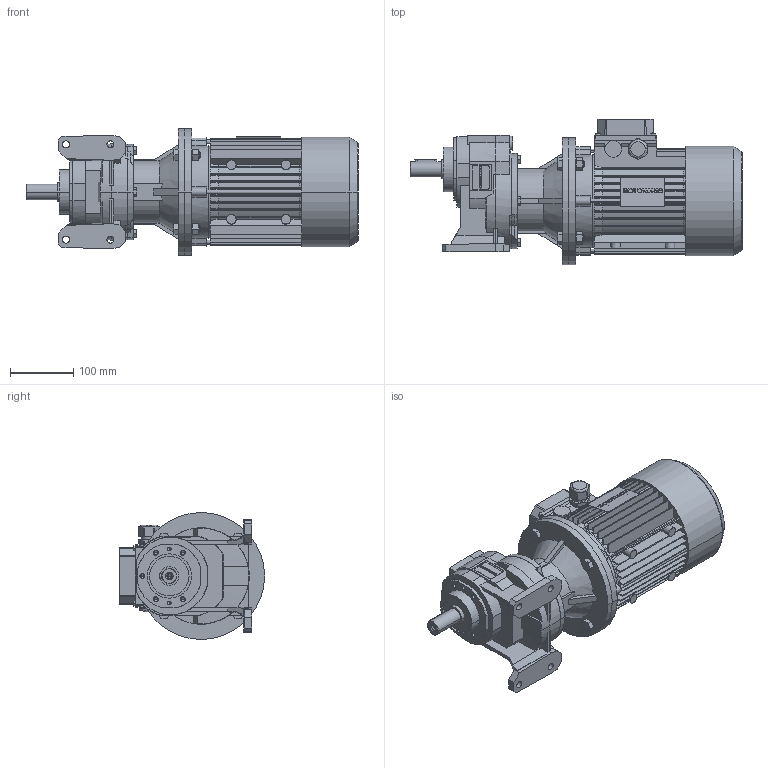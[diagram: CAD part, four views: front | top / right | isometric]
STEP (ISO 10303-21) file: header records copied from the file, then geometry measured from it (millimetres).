
FILE_DESCRIPTION( ( '' ), '1' );
FILE_NAME( '//expscmdclustefs.cadenas.external/client_exchange/iodir/jobs/output/wkb51935046_no0/STEP/H051U1_2790_B524x500T090L1_2_03.stp', '2012-12-04T09:19:48', ( '' ), ( '' ), ' ', ' ', ' ' );
FILE_SCHEMA( ( 'CONFIG_CONTROL_DESIGN' ) );
Length unit declared in the file: millimetre
Products named in the file (11): 1; 2; 3; 4; 5; 6; 7; 8; 9; 10; 11
Bounding box: 523 x 228.6 x 200 mm (x, y, z)
Volume: 8981172.5 mm3; surface area: 813359.4 mm2
Topology: 11 solids, 11 shells, 2280 faces, 6211 edges, 4065 vertices
Faces by surface type: plane 1206, cylinder 861, cone 196, torus 11, sphere 6
Entity records: 73355 total; most frequent: CARTESIAN_POINT 13939, DIRECTION 12701, ORIENTED_EDGE 12386, EDGE_CURVE 6193, AXIS2_PLACEMENT_3D 4509, VERTEX_POINT 4065, LINE 3683, VECTOR 3683
